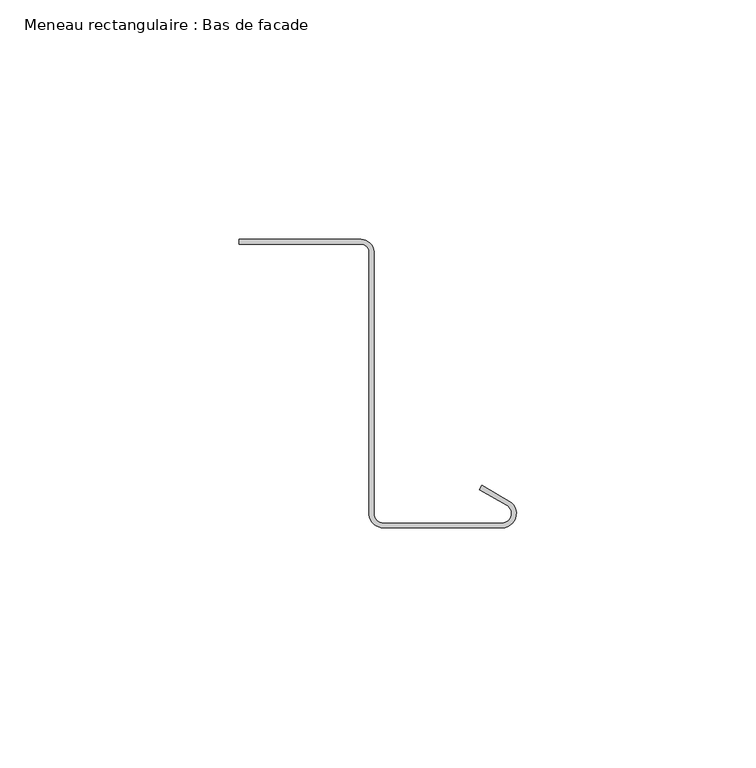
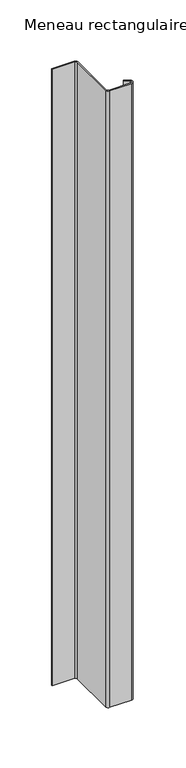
"""IFC4 building model written with IfcOpenShell, lengths in millimetres: member geometry, Meneau rectangulaire : Bas de facade."""

from ifc_helpers import new_model, si_unit, point, frame, frame_2d, origin, place, context, project, spatial, polyline, circle_curve, trimmed, segment, composite_curve, outline, extrude, source, transform, mapped, element, save


def meneau_rectangulaire_bas_de_facade_17f7cb37(model_context):
    return source(origin(), model_context, "Body", "SweptSolid", [
        extrude(outline(composite_curve([segment(trimmed(circle_curve(frame_2d((-32.4584179, 0.2088923)), 2.75), [point((-32.4584179, 2.9588923))], [point((-29.7143802, 0.3898824))], False, "CARTESIAN"), True, "CONTINUOUS"), segment(polyline([(-29.7143802, 0.3898824), (-29.7143802, -54.5495817)]), True, "CONTINUOUS"), segment(trimmed(circle_curve(frame_2d((-27.735368, -54.2605998)), 2.0), [point((-29.7143802, -54.5495817))], [point((-27.735368, -56.2605998))], True, "CARTESIAN"), True, "CONTINUOUS"), segment(polyline([(-27.735368, -56.2605998), (-3.0, -56.2605998)]), True, "CONTINUOUS"), segment(trimmed(circle_curve(frame_2d((-3.0, -54.2605998)), 2.0), [point((-3.0, -56.2605998))], [point((-2.0, -52.528549))], True, "CARTESIAN"), True, "CONTINUOUS"), segment(polyline([(-2.0, -52.528549), (-7.6638061, -49.258549), (-7.1638061, -48.3925235), (-1.5, -51.6625235)]), True, "CONTINUOUS"), segment(trimmed(circle_curve(frame_2d((-3.0, -54.2605998)), 3.0), [point((-1.5, -51.6625235))], [point((-3.0, -57.2605998))], False, "CARTESIAN"), True, "CONTINUOUS"), segment(polyline([(-3.0, -57.2605998), (-27.735368, -57.2605998)]), True, "CONTINUOUS"), segment(trimmed(circle_curve(frame_2d((-27.735368, -54.2605998)), 3.0), [point((-27.735368, -57.2605998))], [point((-30.7239521, -54.522067))], False, "CARTESIAN"), True, "CONTINUOUS"), segment(polyline([(-30.7239521, -54.522067), (-30.7239521, 0.4415475)]), True, "CONTINUOUS"), segment(trimmed(circle_curve(frame_2d((-32.4584179, 0.2088923)), 1.75), [point((-30.7239521, 0.4415475))], [point((-32.4584179, 1.9588923))], True, "CARTESIAN"), True, "CONTINUOUS"), segment(polyline([(-32.4584179, 1.9588923), (-57.8548383, 1.9588923), (-57.8548383, 2.9588923), (-32.4584179, 2.9588923)]), True, "CONTINUOUS")], self_intersect=False)), frame((0.0, 0.0, -728.0), z_axis=(0.0, 0.0, 1.0), x_axis=(1.0, 0.0, 0.0)), (0.0, 0.0, 1.0), 728.0),
    ])


if __name__ == "__main__":
    model = new_model("IFC4")
    model_context = context("Model", 3, world=origin())
    ifc_project = project(units=[si_unit("LENGTHUNIT", "METRE", prefix="MILLI")], contexts=[model_context])
    site = spatial("IfcSite", under=ifc_project)
    building = spatial("IfcBuilding", under=site)
    placement = place(None, origin())
    meneau_rectangulaire_bas_de_facade_shape = meneau_rectangulaire_bas_de_facade_17f7cb37(model_context)
    element("IfcMember", 1, ObjectType="Meneau rectangulaire : Bas de facade", at=placement, inside=building, context=model_context, shape_type="MappedRepresentation", body=[
        mapped(meneau_rectangulaire_bas_de_facade_shape, transform((0.0, 0.0, 0.0), x_axis=(1.0, 0.0, 0.0), y_axis=(0.0, 1.0, 0.0), z_axis=(0.0, 0.0, 1.0))),
    ])
    save(model, "model.ifc")
